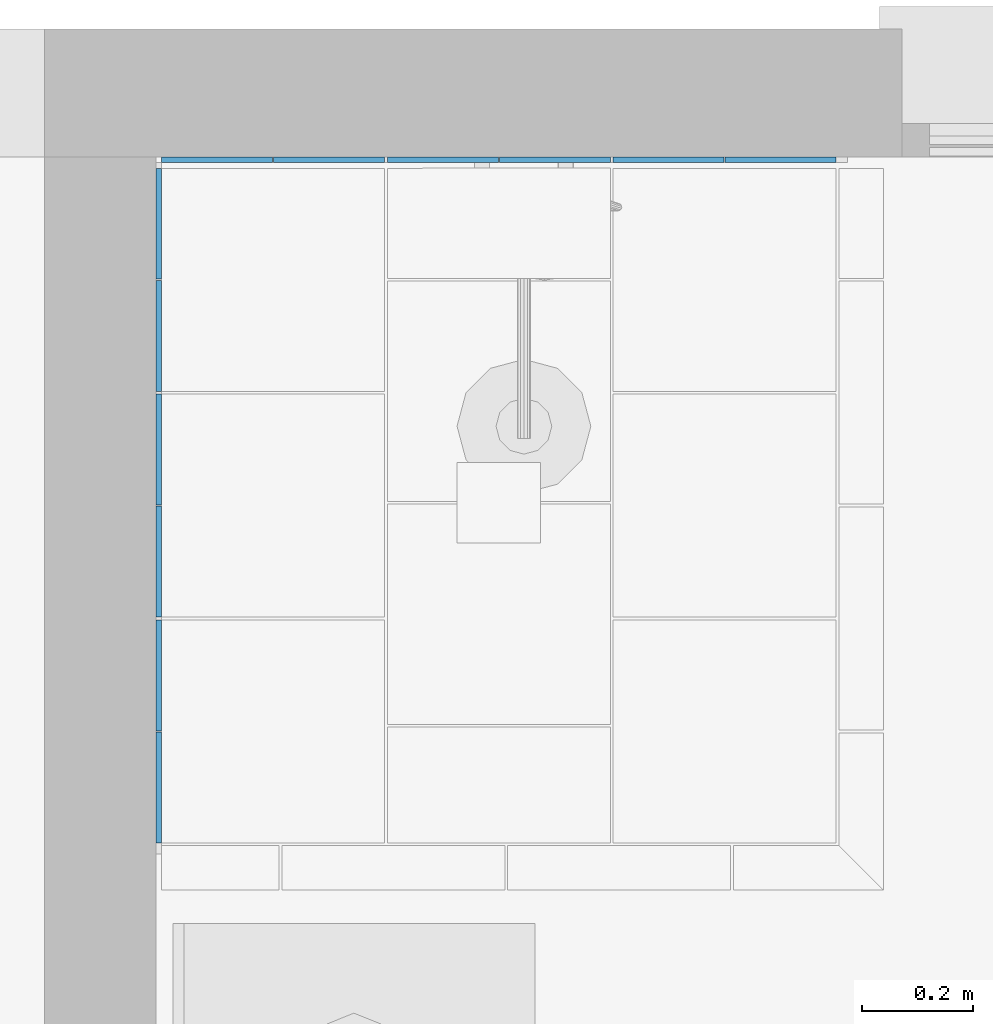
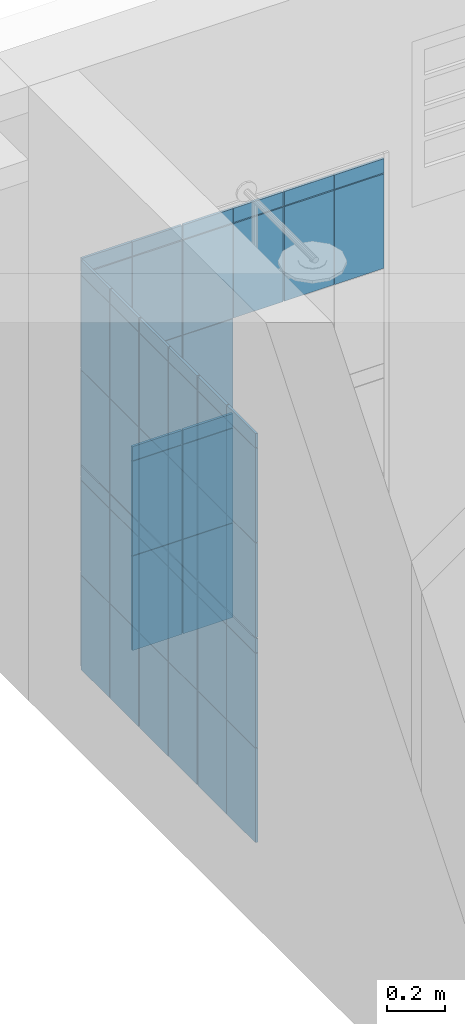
# One storey, part 4 of 13: 60 walls.
"""IFC2X3 building model written with IfcOpenShell, lengths in metres."""

from ifc_helpers import new_model, entity, si_unit, converted_unit, derived_unit, money_unit, direction, frame, origin_with_axes, place, context, subcontext, project, spatial, polyline, outline, extrude, material, layer, layer_set, layer_usage, type_object, element, save


model = new_model("IFC2X3")

# Units and contexts
model_context = context("Model", 3, precision=1e-05, world=origin_with_axes(), true_north=direction((0.0, 1.0)))
body_context = subcontext(model_context, "Body", "Model", "MODEL_VIEW")
ifc_project = project(units=[si_unit("LENGTHUNIT", "METRE"), si_unit("AREAUNIT", "SQUARE_METRE"), si_unit("VOLUMEUNIT", "CUBIC_METRE"), converted_unit("PLANEANGLEUNIT", "DEGREE", entity("IfcPlaneAngleMeasure", 0.0174532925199), si_unit("PLANEANGLEUNIT", "RADIAN"), dimensions=[0, 0, 0, 0, 0, 0, 0]), si_unit("SOLIDANGLEUNIT", "STERADIAN"), money_unit("CHF"), converted_unit("TIMEUNIT", "Year", entity("IfcTimeMeasure", 31556926.0), si_unit("TIMEUNIT", "SECOND"), dimensions=[0, 0, 1, 0, 0, 0, 0]), si_unit("MASSUNIT", "GRAM", prefix="KILO"), si_unit("THERMODYNAMICTEMPERATUREUNIT", "DEGREE_CELSIUS"), si_unit("LUMINOUSINTENSITYUNIT", "LUMEN"), si_unit("ENERGYUNIT", "JOULE", prefix="MEGA"), derived_unit("THERMALCONDUCTANCEUNIT", [(si_unit("POWERUNIT", "WATT"), 1), (si_unit("LENGTHUNIT", "METRE"), -1), (si_unit("THERMODYNAMICTEMPERATUREUNIT", "KELVIN"), -1)]), derived_unit("SPECIFICHEATCAPACITYUNIT", [(si_unit("ENERGYUNIT", "JOULE"), 1), (si_unit("MASSUNIT", "GRAM", prefix="KILO"), -1), (si_unit("THERMODYNAMICTEMPERATUREUNIT", "KELVIN"), -1)]), derived_unit("MASSDENSITYUNIT", [(si_unit("MASSUNIT", "GRAM", prefix="KILO"), 1), (si_unit("VOLUMEUNIT", "CUBIC_METRE"), -1)])], contexts=[model_context])

# Site, building, storey
site_placement = place(None, origin_with_axes())
site = spatial("IfcSite", under=ifc_project, at=site_placement, Name="Site", CompositionType="ELEMENT")
building_placement = place(site_placement, origin_with_axes())
building = spatial("IfcBuilding", under=site, at=building_placement, Name="Bâtiment", CompositionType="ELEMENT")
storey_placement = place(building_placement, origin_with_axes())
storey = spatial("IfcBuildingStorey", under=building, at=storey_placement, Name="SOUS-SOL", CompositionType="ELEMENT", Elevation=0.0)

# Walls
ifc_material = material(Name="MUR VILLA")
ifc_layer = layer(ifc_material, 0.01, ventilated="UNKNOWN")
ifc_layer_set = layer_set([ifc_layer], Name="MUR VILLA 0.01")
ifc_layer_usage_1 = layer_usage(ifc_layer_set, "AXIS2", "POSITIVE", 0.0)
wall_type = type_object("IfcWallType", Name="MUR VILLA 10", PredefinedType="NOTDEFINED")
wall_1_placement = place(storey_placement, frame((90.1255190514, 18.5703410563, -1.04621696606), z_axis=(0.0, 0.0, 1.0), x_axis=(1.0, 0.0, 0.0)))
element("IfcWallStandardCase", 1, at=wall_1_placement, inside=storey, type_object=wall_type, material=ifc_layer_usage_1, Name="Mur-020", context=body_context, shape_type="SweptSolid", body=[
    extrude(outline(polyline([(0.0, 0.0), (0.199, 0.0), (0.199, 0.01), (0.0, 0.01), (0.0, 0.0)])), origin_with_axes(), (0.0, 0.0, 1.0), 0.06),
])
ifc_layer_usage_2 = layer_usage(ifc_layer_set, "AXIS2", "POSITIVE", 0.0)
wall_2_placement = place(storey_placement, frame((89.9215190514, 18.57034355, -1.45078303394), z_axis=(0.0, 0.0, 1.0), x_axis=(1.0, 0.0, 0.0)))
element("IfcWallStandardCase", 2, at=wall_2_placement, inside=storey, type_object=wall_type, material=ifc_layer_usage_2, Name="Mur-020", context=body_context, shape_type="SweptSolid", body=[
    extrude(outline(polyline([(0.0, 0.0), (0.199, 0.0), (0.199, 0.01), (0.0, 0.01), (0.0, 0.0)])), origin_with_axes(), (0.0, 0.0, 1.0), 0.4),
])
ifc_layer_usage_3 = layer_usage(ifc_layer_set, "AXIS2", "POSITIVE", 0.0)
wall_3_placement = place(storey_placement, frame((90.1255190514, 18.57034355, -1.45078303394), z_axis=(0.0, 0.0, 1.0), x_axis=(1.0, 0.0, 0.0)))
element("IfcWallStandardCase", 3, at=wall_3_placement, inside=storey, type_object=wall_type, material=ifc_layer_usage_3, Name="Mur-020", context=body_context, shape_type="SweptSolid", body=[
    extrude(outline(polyline([(0.0, 0.0), (0.199, 0.0), (0.199, 0.01), (0.0, 0.01), (0.0, 0.0)])), origin_with_axes(), (0.0, 0.0, 1.0), 0.4),
])
ifc_layer_usage_4 = layer_usage(ifc_layer_set, "AXIS2", "POSITIVE", 0.0)
wall_4_placement = place(storey_placement, frame((90.3265190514, 18.57034355, -1.45078303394), z_axis=(0.0, 0.0, 1.0), x_axis=(1.0, 0.0, 0.0)))
element("IfcWallStandardCase", 4, at=wall_4_placement, inside=storey, type_object=wall_type, material=ifc_layer_usage_4, Name="Mur-020", context=body_context, shape_type="SweptSolid", body=[
    extrude(outline(polyline([(0.0, 0.0), (0.199, 0.0), (0.199, 0.01), (0.0, 0.01), (0.0, 0.0)])), origin_with_axes(), (0.0, 0.0, 1.0), 0.4),
])
ifc_layer_usage_5 = layer_usage(ifc_layer_set, "AXIS2", "POSITIVE", 0.0)
wall_5_placement = place(storey_placement, frame((89.9215190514, 18.5703410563, -1.04621696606), z_axis=(0.0, 0.0, 1.0), x_axis=(1.0, 0.0, 0.0)))
element("IfcWallStandardCase", 5, at=wall_5_placement, inside=storey, type_object=wall_type, material=ifc_layer_usage_5, Name="Mur-020", context=body_context, shape_type="SweptSolid", body=[
    extrude(outline(polyline([(0.0, 0.0), (0.199, 0.0), (0.199, 0.01), (0.0, 0.01), (0.0, 0.0)])), origin_with_axes(), (0.0, 0.0, 1.0), 0.06),
])
ifc_layer_usage_6 = layer_usage(ifc_layer_set, "AXIS2", "POSITIVE", 0.0)
wall_6_placement = place(storey_placement, frame((90.3265190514, 18.5703410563, -1.04621696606), z_axis=(0.0, 0.0, 1.0), x_axis=(1.0, 0.0, 0.0)))
element("IfcWallStandardCase", 6, at=wall_6_placement, inside=storey, type_object=wall_type, material=ifc_layer_usage_6, Name="Mur-020", context=body_context, shape_type="SweptSolid", body=[
    extrude(outline(polyline([(0.0, 0.0), (0.199, 0.0), (0.199, 0.01), (0.0, 0.01), (0.0, 0.0)])), origin_with_axes(), (0.0, 0.0, 1.0), 0.06),
])
ifc_layer_usage_7 = layer_usage(ifc_layer_set, "AXIS2", "POSITIVE", 0.0)
wall_7_placement = place(storey_placement, frame((89.3155190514, 18.3613410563, -2.718), z_axis=(0.0, 0.0, 1.0), x_axis=(0.0, 1.0, 0.0)))
element("IfcWallStandardCase", 7, at=wall_7_placement, inside=storey, type_object=wall_type, material=ifc_layer_usage_7, Name="Mur-020", context=body_context, shape_type="SweptSolid", body=[
    extrude(outline(polyline([(0.0, 0.0), (0.199, 0.0), (0.199, 0.01), (0.0, 0.01), (0.0, 0.0)])), origin_with_axes(), (0.0, 0.0, 1.0), 0.4),
])
ifc_layer_usage_8 = layer_usage(ifc_layer_set, "AXIS2", "POSITIVE", 0.0)
wall_8_placement = place(storey_placement, frame((89.3155190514, 18.57034355, -1.85278303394), z_axis=(0.0, 0.0, 1.0), x_axis=(1.0, 0.0, 0.0)))
element("IfcWallStandardCase", 8, at=wall_8_placement, inside=storey, type_object=wall_type, material=ifc_layer_usage_8, Name="Mur-020", context=body_context, shape_type="SweptSolid", body=[
    extrude(outline(polyline([(0.0, 0.0), (0.199, 0.0), (0.199, 0.01), (0.0, 0.01), (0.0, 0.0)])), origin_with_axes(), (0.0, 0.0, 1.0), 0.4),
])
ifc_layer_usage_9 = layer_usage(ifc_layer_set, "AXIS2", "POSITIVE", 0.0)
wall_9_placement = place(storey_placement, frame((89.3155190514, 17.5513410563, -1.849), z_axis=(0.0, 0.0, 1.0), x_axis=(0.0, 1.0, 0.0)))
element("IfcWallStandardCase", 9, at=wall_9_placement, inside=storey, type_object=wall_type, material=ifc_layer_usage_9, Name="Mur-020", context=body_context, shape_type="SweptSolid", body=[
    extrude(outline(polyline([(0.0, 0.0), (0.199, 0.0), (0.199, 0.01), (0.0, 0.01), (0.0, 0.0)])), origin_with_axes(), (0.0, 0.0, 1.0), 0.4),
])
ifc_layer_usage_10 = layer_usage(ifc_layer_set, "AXIS2", "POSITIVE", 0.0)
wall_10_placement = place(storey_placement, frame((89.3155190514, 17.3503410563, -1.849), z_axis=(0.0, 0.0, 1.0), x_axis=(0.0, 1.0, 0.0)))
element("IfcWallStandardCase", 10, at=wall_10_placement, inside=storey, type_object=wall_type, material=ifc_layer_usage_10, Name="Mur-020", context=body_context, shape_type="SweptSolid", body=[
    extrude(outline(polyline([(0.0, 0.0), (0.199, 0.0), (0.199, 0.01), (0.0, 0.01), (0.0, 0.0)])), origin_with_axes(), (0.0, 0.0, 1.0), 0.4),
])
ifc_layer_usage_11 = layer_usage(ifc_layer_set, "AXIS2", "POSITIVE", 0.0)
wall_11_placement = place(storey_placement, frame((89.3155190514, 17.9563410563, -1.849), z_axis=(0.0, 0.0, 1.0), x_axis=(0.0, 1.0, 0.0)))
element("IfcWallStandardCase", 11, at=wall_11_placement, inside=storey, type_object=wall_type, material=ifc_layer_usage_11, Name="Mur-020", context=body_context, shape_type="SweptSolid", body=[
    extrude(outline(polyline([(0.0, 0.0), (0.199, 0.0), (0.199, 0.01), (0.0, 0.01), (0.0, 0.0)])), origin_with_axes(), (0.0, 0.0, 1.0), 0.4),
])
ifc_layer_usage_12 = layer_usage(ifc_layer_set, "AXIS2", "POSITIVE", 0.0)
wall_12_placement = place(storey_placement, frame((89.3155190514, 18.3613410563, -2.316), z_axis=(0.0, 0.0, 1.0), x_axis=(0.0, 1.0, 0.0)))
element("IfcWallStandardCase", 12, at=wall_12_placement, inside=storey, type_object=wall_type, material=ifc_layer_usage_12, Name="Mur-020", context=body_context, shape_type="SweptSolid", body=[
    extrude(outline(polyline([(0.0, 0.0), (0.199, 0.0), (0.199, 0.01), (0.0, 0.01), (0.0, 0.0)])), origin_with_axes(), (0.0, 0.0, 1.0), 0.4),
])
ifc_layer_usage_13 = layer_usage(ifc_layer_set, "AXIS2", "POSITIVE", 0.0)
wall_13_placement = place(storey_placement, frame((89.3155190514, 17.7553410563, -2.316), z_axis=(0.0, 0.0, 1.0), x_axis=(0.0, 1.0, 0.0)))
element("IfcWallStandardCase", 13, at=wall_13_placement, inside=storey, type_object=wall_type, material=ifc_layer_usage_13, Name="Mur-020", context=body_context, shape_type="SweptSolid", body=[
    extrude(outline(polyline([(0.0, 0.0), (0.199, 0.0), (0.199, 0.01), (0.0, 0.01), (0.0, 0.0)])), origin_with_axes(), (0.0, 0.0, 1.0), 0.4),
])
ifc_layer_usage_14 = layer_usage(ifc_layer_set, "AXIS2", "POSITIVE", 0.0)
wall_14_placement = place(storey_placement, frame((89.7205190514, 18.5703410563, -1.914), z_axis=(0.0, 0.0, 1.0), x_axis=(1.0, 0.0, 0.0)))
element("IfcWallStandardCase", 14, at=wall_14_placement, inside=storey, type_object=wall_type, material=ifc_layer_usage_14, Name="Mur-020", context=body_context, shape_type="SweptSolid", body=[
    extrude(outline(polyline([(0.0, 0.0), (0.199, 0.0), (0.199, 0.01), (0.0, 0.01), (0.0, 0.0)])), origin_with_axes(), (0.0, 0.0, 1.0), 0.06),
])
ifc_layer_usage_15 = layer_usage(ifc_layer_set, "AXIS2", "POSITIVE", 0.0)
wall_15_placement = place(storey_placement, frame((89.3155190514, 17.5513410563, -2.718), z_axis=(0.0, 0.0, 1.0), x_axis=(0.0, 1.0, 0.0)))
element("IfcWallStandardCase", 15, at=wall_15_placement, inside=storey, type_object=wall_type, material=ifc_layer_usage_15, Name="Mur-020", context=body_context, shape_type="SweptSolid", body=[
    extrude(outline(polyline([(0.0, 0.0), (0.199, 0.0), (0.199, 0.01), (0.0, 0.01), (0.0, 0.0)])), origin_with_axes(), (0.0, 0.0, 1.0), 0.4),
])
ifc_layer_usage_16 = layer_usage(ifc_layer_set, "AXIS2", "POSITIVE", 0.0)
wall_16_placement = place(storey_placement, frame((89.3155190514, 17.3503410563, -2.718), z_axis=(0.0, 0.0, 1.0), x_axis=(0.0, 1.0, 0.0)))
element("IfcWallStandardCase", 16, at=wall_16_placement, inside=storey, type_object=wall_type, material=ifc_layer_usage_16, Name="Mur-020", context=body_context, shape_type="SweptSolid", body=[
    extrude(outline(polyline([(0.0, 0.0), (0.199, 0.0), (0.199, 0.01), (0.0, 0.01), (0.0, 0.0)])), origin_with_axes(), (0.0, 0.0, 1.0), 0.4),
])
ifc_layer_usage_17 = layer_usage(ifc_layer_set, "AXIS2", "POSITIVE", 0.0)
wall_17_placement = place(storey_placement, frame((89.3155190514, 17.3503410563, -2.316), z_axis=(0.0, 0.0, 1.0), x_axis=(0.0, 1.0, 0.0)))
element("IfcWallStandardCase", 17, at=wall_17_placement, inside=storey, type_object=wall_type, material=ifc_layer_usage_17, Name="Mur-020", context=body_context, shape_type="SweptSolid", body=[
    extrude(outline(polyline([(0.0, 0.0), (0.199, 0.0), (0.199, 0.01), (0.0, 0.01), (0.0, 0.0)])), origin_with_axes(), (0.0, 0.0, 1.0), 0.4),
])
ifc_layer_usage_18 = layer_usage(ifc_layer_set, "AXIS2", "POSITIVE", 0.0)
wall_18_placement = place(storey_placement, frame((89.3155190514, 17.5513410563, -2.316), z_axis=(0.0, 0.0, 1.0), x_axis=(0.0, 1.0, 0.0)))
element("IfcWallStandardCase", 18, at=wall_18_placement, inside=storey, type_object=wall_type, material=ifc_layer_usage_18, Name="Mur-020", context=body_context, shape_type="SweptSolid", body=[
    extrude(outline(polyline([(0.0, 0.0), (0.199, 0.0), (0.199, 0.01), (0.0, 0.01), (0.0, 0.0)])), origin_with_axes(), (0.0, 0.0, 1.0), 0.4),
])
ifc_layer_usage_19 = layer_usage(ifc_layer_set, "AXIS2", "POSITIVE", 0.0)
wall_19_placement = place(storey_placement, frame((89.3155190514, 18.1603410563, -2.718), z_axis=(0.0, 0.0, 1.0), x_axis=(0.0, 1.0, 0.0)))
element("IfcWallStandardCase", 19, at=wall_19_placement, inside=storey, type_object=wall_type, material=ifc_layer_usage_19, Name="Mur-020", context=body_context, shape_type="SweptSolid", body=[
    extrude(outline(polyline([(0.0, 0.0), (0.199, 0.0), (0.199, 0.01), (0.0, 0.01), (0.0, 0.0)])), origin_with_axes(), (0.0, 0.0, 1.0), 0.4),
])
ifc_layer_usage_20 = layer_usage(ifc_layer_set, "AXIS2", "POSITIVE", 0.0)
wall_20_placement = place(storey_placement, frame((89.3155190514, 17.7553410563, -2.718), z_axis=(0.0, 0.0, 1.0), x_axis=(0.0, 1.0, 0.0)))
element("IfcWallStandardCase", 20, at=wall_20_placement, inside=storey, type_object=wall_type, material=ifc_layer_usage_20, Name="Mur-020", context=body_context, shape_type="SweptSolid", body=[
    extrude(outline(polyline([(0.0, 0.0), (0.199, 0.0), (0.199, 0.01), (0.0, 0.01), (0.0, 0.0)])), origin_with_axes(), (0.0, 0.0, 1.0), 0.4),
])
ifc_layer_usage_21 = layer_usage(ifc_layer_set, "AXIS2", "POSITIVE", 0.0)
wall_21_placement = place(storey_placement, frame((89.3155190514, 17.9563410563, -2.316), z_axis=(0.0, 0.0, 1.0), x_axis=(0.0, 1.0, 0.0)))
element("IfcWallStandardCase", 21, at=wall_21_placement, inside=storey, type_object=wall_type, material=ifc_layer_usage_21, Name="Mur-020", context=body_context, shape_type="SweptSolid", body=[
    extrude(outline(polyline([(0.0, 0.0), (0.199, 0.0), (0.199, 0.01), (0.0, 0.01), (0.0, 0.0)])), origin_with_axes(), (0.0, 0.0, 1.0), 0.4),
])
ifc_layer_usage_22 = layer_usage(ifc_layer_set, "AXIS2", "POSITIVE", 0.0)
wall_22_placement = place(storey_placement, frame((89.3155190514, 18.1603410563, -2.316), z_axis=(0.0, 0.0, 1.0), x_axis=(0.0, 1.0, 0.0)))
element("IfcWallStandardCase", 22, at=wall_22_placement, inside=storey, type_object=wall_type, material=ifc_layer_usage_22, Name="Mur-020", context=body_context, shape_type="SweptSolid", body=[
    extrude(outline(polyline([(0.0, 0.0), (0.199, 0.0), (0.199, 0.01), (0.0, 0.01), (0.0, 0.0)])), origin_with_axes(), (0.0, 0.0, 1.0), 0.4),
])
ifc_layer_usage_23 = layer_usage(ifc_layer_set, "AXIS2", "POSITIVE", 0.0)
wall_23_placement = place(storey_placement, frame((89.3155190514, 17.9563410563, -2.718), z_axis=(0.0, 0.0, 1.0), x_axis=(0.0, 1.0, 0.0)))
element("IfcWallStandardCase", 23, at=wall_23_placement, inside=storey, type_object=wall_type, material=ifc_layer_usage_23, Name="Mur-020", context=body_context, shape_type="SweptSolid", body=[
    extrude(outline(polyline([(0.0, 0.0), (0.199, 0.0), (0.199, 0.01), (0.0, 0.01), (0.0, 0.0)])), origin_with_axes(), (0.0, 0.0, 1.0), 0.4),
])
ifc_layer_usage_24 = layer_usage(ifc_layer_set, "AXIS2", "POSITIVE", 0.0)
wall_24_placement = place(storey_placement, frame((89.3155190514, 18.5703410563, -1.914), z_axis=(0.0, 0.0, 1.0), x_axis=(1.0, 0.0, 0.0)))
element("IfcWallStandardCase", 24, at=wall_24_placement, inside=storey, type_object=wall_type, material=ifc_layer_usage_24, Name="Mur-020", context=body_context, shape_type="SweptSolid", body=[
    extrude(outline(polyline([(0.0, 0.0), (0.199, 0.0), (0.199, 0.01), (0.0, 0.01), (0.0, 0.0)])), origin_with_axes(), (0.0, 0.0, 1.0), 0.06),
])
ifc_layer_usage_25 = layer_usage(ifc_layer_set, "AXIS2", "POSITIVE", 0.0)
wall_25_placement = place(storey_placement, frame((89.3155190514, 17.3503410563, -1.914), z_axis=(0.0, 0.0, 1.0), x_axis=(0.0, 1.0, 0.0)))
element("IfcWallStandardCase", 25, at=wall_25_placement, inside=storey, type_object=wall_type, material=ifc_layer_usage_25, Name="Mur-020", context=body_context, shape_type="SweptSolid", body=[
    extrude(outline(polyline([(0.0, 0.0), (0.199, 0.0), (0.199, 0.01), (0.0, 0.01), (0.0, 0.0)])), origin_with_axes(), (0.0, 0.0, 1.0), 0.06),
])
ifc_layer_usage_26 = layer_usage(ifc_layer_set, "AXIS2", "POSITIVE", 0.0)
wall_26_placement = place(storey_placement, frame((89.3155190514, 17.7553410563, -1.849), z_axis=(0.0, 0.0, 1.0), x_axis=(0.0, 1.0, 0.0)))
element("IfcWallStandardCase", 26, at=wall_26_placement, inside=storey, type_object=wall_type, material=ifc_layer_usage_26, Name="Mur-020", context=body_context, shape_type="SweptSolid", body=[
    extrude(outline(polyline([(0.0, 0.0), (0.199, 0.0), (0.199, 0.01), (0.0, 0.01), (0.0, 0.0)])), origin_with_axes(), (0.0, 0.0, 1.0), 0.4),
])
ifc_layer_usage_27 = layer_usage(ifc_layer_set, "AXIS2", "POSITIVE", 0.0)
wall_27_placement = place(storey_placement, frame((89.7205190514, 18.57034355, -1.85278303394), z_axis=(0.0, 0.0, 1.0), x_axis=(1.0, 0.0, 0.0)))
element("IfcWallStandardCase", 27, at=wall_27_placement, inside=storey, type_object=wall_type, material=ifc_layer_usage_27, Name="Mur-020", context=body_context, shape_type="SweptSolid", body=[
    extrude(outline(polyline([(0.0, 0.0), (0.199, 0.0), (0.199, 0.01), (0.0, 0.01), (0.0, 0.0)])), origin_with_axes(), (0.0, 0.0, 1.0), 0.4),
])
ifc_layer_usage_28 = layer_usage(ifc_layer_set, "AXIS2", "POSITIVE", 0.0)
wall_28_placement = place(storey_placement, frame((89.7205190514, 18.57034355, -1.45078303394), z_axis=(0.0, 0.0, 1.0), x_axis=(1.0, 0.0, 0.0)))
element("IfcWallStandardCase", 28, at=wall_28_placement, inside=storey, type_object=wall_type, material=ifc_layer_usage_28, Name="Mur-020", context=body_context, shape_type="SweptSolid", body=[
    extrude(outline(polyline([(0.0, 0.0), (0.199, 0.0), (0.199, 0.01), (0.0, 0.01), (0.0, 0.0)])), origin_with_axes(), (0.0, 0.0, 1.0), 0.4),
])
ifc_layer_usage_29 = layer_usage(ifc_layer_set, "AXIS2", "POSITIVE", 0.0)
wall_29_placement = place(storey_placement, frame((89.5165190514, 18.57034355, -2.718), z_axis=(0.0, 0.0, 1.0), x_axis=(1.0, 0.0, 0.0)))
element("IfcWallStandardCase", 29, at=wall_29_placement, inside=storey, type_object=wall_type, material=ifc_layer_usage_29, Name="Mur-020", context=body_context, shape_type="SweptSolid", body=[
    extrude(outline(polyline([(0.0, 0.0), (0.199, 0.0), (0.199, 0.01), (0.0, 0.01), (0.0, 0.0)])), origin_with_axes(), (0.0, 0.0, 1.0), 0.4),
])
ifc_layer_usage_30 = layer_usage(ifc_layer_set, "AXIS2", "POSITIVE", 0.0)
wall_30_placement = place(storey_placement, frame((89.3155190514, 18.57034355, -2.718), z_axis=(0.0, 0.0, 1.0), x_axis=(1.0, 0.0, 0.0)))
element("IfcWallStandardCase", 30, at=wall_30_placement, inside=storey, type_object=wall_type, material=ifc_layer_usage_30, Name="Mur-020", context=body_context, shape_type="SweptSolid", body=[
    extrude(outline(polyline([(0.0, 0.0), (0.199, 0.0), (0.199, 0.01), (0.0, 0.01), (0.0, 0.0)])), origin_with_axes(), (0.0, 0.0, 1.0), 0.4),
])
ifc_layer_usage_31 = layer_usage(ifc_layer_set, "AXIS2", "POSITIVE", 0.0)
wall_31_placement = place(storey_placement, frame((89.7205190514, 18.57034355, -2.718), z_axis=(0.0, 0.0, 1.0), x_axis=(1.0, 0.0, 0.0)))
element("IfcWallStandardCase", 31, at=wall_31_placement, inside=storey, type_object=wall_type, material=ifc_layer_usage_31, Name="Mur-020", context=body_context, shape_type="SweptSolid", body=[
    extrude(outline(polyline([(0.0, 0.0), (0.199, 0.0), (0.199, 0.01), (0.0, 0.01), (0.0, 0.0)])), origin_with_axes(), (0.0, 0.0, 1.0), 0.4),
])
ifc_layer_usage_32 = layer_usage(ifc_layer_set, "AXIS2", "POSITIVE", 0.0)
wall_32_placement = place(storey_placement, frame((89.5165190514, 18.57034355, -2.316), z_axis=(0.0, 0.0, 1.0), x_axis=(1.0, 0.0, 0.0)))
element("IfcWallStandardCase", 32, at=wall_32_placement, inside=storey, type_object=wall_type, material=ifc_layer_usage_32, Name="Mur-020", context=body_context, shape_type="SweptSolid", body=[
    extrude(outline(polyline([(0.0, 0.0), (0.199, 0.0), (0.199, 0.01), (0.0, 0.01), (0.0, 0.0)])), origin_with_axes(), (0.0, 0.0, 1.0), 0.4),
])
ifc_layer_usage_33 = layer_usage(ifc_layer_set, "AXIS2", "POSITIVE", 0.0)
wall_33_placement = place(storey_placement, frame((89.3155190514, 18.57034355, -2.316), z_axis=(0.0, 0.0, 1.0), x_axis=(1.0, 0.0, 0.0)))
element("IfcWallStandardCase", 33, at=wall_33_placement, inside=storey, type_object=wall_type, material=ifc_layer_usage_33, Name="Mur-020", context=body_context, shape_type="SweptSolid", body=[
    extrude(outline(polyline([(0.0, 0.0), (0.199, 0.0), (0.199, 0.01), (0.0, 0.01), (0.0, 0.0)])), origin_with_axes(), (0.0, 0.0, 1.0), 0.4),
])
ifc_layer_usage_34 = layer_usage(ifc_layer_set, "AXIS2", "POSITIVE", 0.0)
wall_34_placement = place(storey_placement, frame((89.7205190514, 18.57034355, -2.316), z_axis=(0.0, 0.0, 1.0), x_axis=(1.0, 0.0, 0.0)))
element("IfcWallStandardCase", 34, at=wall_34_placement, inside=storey, type_object=wall_type, material=ifc_layer_usage_34, Name="Mur-020", context=body_context, shape_type="SweptSolid", body=[
    extrude(outline(polyline([(0.0, 0.0), (0.199, 0.0), (0.199, 0.01), (0.0, 0.01), (0.0, 0.0)])), origin_with_axes(), (0.0, 0.0, 1.0), 0.4),
])
ifc_layer_usage_35 = layer_usage(ifc_layer_set, "AXIS2", "POSITIVE", 0.0)
wall_35_placement = place(storey_placement, frame((89.5165190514, 18.5703410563, -1.914), z_axis=(0.0, 0.0, 1.0), x_axis=(1.0, 0.0, 0.0)))
element("IfcWallStandardCase", 35, at=wall_35_placement, inside=storey, type_object=wall_type, material=ifc_layer_usage_35, Name="Mur-020", context=body_context, shape_type="SweptSolid", body=[
    extrude(outline(polyline([(0.0, 0.0), (0.199, 0.0), (0.199, 0.01), (0.0, 0.01), (0.0, 0.0)])), origin_with_axes(), (0.0, 0.0, 1.0), 0.06),
])
ifc_layer_usage_36 = layer_usage(ifc_layer_set, "AXIS2", "POSITIVE", 0.0)
wall_36_placement = place(storey_placement, frame((89.3155190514, 17.3503410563, -1.447), z_axis=(0.0, 0.0, 1.0), x_axis=(0.0, 1.0, 0.0)))
element("IfcWallStandardCase", 36, at=wall_36_placement, inside=storey, type_object=wall_type, material=ifc_layer_usage_36, Name="Mur-020", context=body_context, shape_type="SweptSolid", body=[
    extrude(outline(polyline([(0.0, 0.0), (0.199, 0.0), (0.199, 0.01), (0.0, 0.01), (0.0, 0.0)])), origin_with_axes(), (0.0, 0.0, 1.0), 0.4),
])
ifc_layer_usage_37 = layer_usage(ifc_layer_set, "AXIS2", "POSITIVE", 0.0)
wall_37_placement = place(storey_placement, frame((89.3155190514, 17.9563410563, -1.447), z_axis=(0.0, 0.0, 1.0), x_axis=(0.0, 1.0, 0.0)))
element("IfcWallStandardCase", 37, at=wall_37_placement, inside=storey, type_object=wall_type, material=ifc_layer_usage_37, Name="Mur-020", context=body_context, shape_type="SweptSolid", body=[
    extrude(outline(polyline([(0.0, 0.0), (0.199, 0.0), (0.199, 0.01), (0.0, 0.01), (0.0, 0.0)])), origin_with_axes(), (0.0, 0.0, 1.0), 0.4),
])
ifc_layer_usage_38 = layer_usage(ifc_layer_set, "AXIS2", "POSITIVE", 0.0)
wall_38_placement = place(storey_placement, frame((89.3155190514, 17.7553410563, -1.447), z_axis=(0.0, 0.0, 1.0), x_axis=(0.0, 1.0, 0.0)))
element("IfcWallStandardCase", 38, at=wall_38_placement, inside=storey, type_object=wall_type, material=ifc_layer_usage_38, Name="Mur-020", context=body_context, shape_type="SweptSolid", body=[
    extrude(outline(polyline([(0.0, 0.0), (0.199, 0.0), (0.199, 0.01), (0.0, 0.01), (0.0, 0.0)])), origin_with_axes(), (0.0, 0.0, 1.0), 0.4),
])
ifc_layer_usage_39 = layer_usage(ifc_layer_set, "AXIS2", "POSITIVE", 0.0)
wall_39_placement = place(storey_placement, frame((89.3155190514, 17.5513410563, -1.447), z_axis=(0.0, 0.0, 1.0), x_axis=(0.0, 1.0, 0.0)))
element("IfcWallStandardCase", 39, at=wall_39_placement, inside=storey, type_object=wall_type, material=ifc_layer_usage_39, Name="Mur-020", context=body_context, shape_type="SweptSolid", body=[
    extrude(outline(polyline([(0.0, 0.0), (0.199, 0.0), (0.199, 0.01), (0.0, 0.01), (0.0, 0.0)])), origin_with_axes(), (0.0, 0.0, 1.0), 0.4),
])
ifc_layer_usage_40 = layer_usage(ifc_layer_set, "AXIS2", "POSITIVE", 0.0)
wall_40_placement = place(storey_placement, frame((89.3155190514, 18.1603410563, -1.447), z_axis=(0.0, 0.0, 1.0), x_axis=(0.0, 1.0, 0.0)))
element("IfcWallStandardCase", 40, at=wall_40_placement, inside=storey, type_object=wall_type, material=ifc_layer_usage_40, Name="Mur-020", context=body_context, shape_type="SweptSolid", body=[
    extrude(outline(polyline([(0.0, 0.0), (0.199, 0.0), (0.199, 0.01), (0.0, 0.01), (0.0, 0.0)])), origin_with_axes(), (0.0, 0.0, 1.0), 0.4),
])
ifc_layer_usage_41 = layer_usage(ifc_layer_set, "AXIS2", "POSITIVE", 0.0)
wall_41_placement = place(storey_placement, frame((89.3155190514, 18.3613410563, -1.447), z_axis=(0.0, 0.0, 1.0), x_axis=(0.0, 1.0, 0.0)))
element("IfcWallStandardCase", 41, at=wall_41_placement, inside=storey, type_object=wall_type, material=ifc_layer_usage_41, Name="Mur-020", context=body_context, shape_type="SweptSolid", body=[
    extrude(outline(polyline([(0.0, 0.0), (0.199, 0.0), (0.199, 0.01), (0.0, 0.01), (0.0, 0.0)])), origin_with_axes(), (0.0, 0.0, 1.0), 0.4),
])
ifc_layer_usage_42 = layer_usage(ifc_layer_set, "AXIS2", "POSITIVE", 0.0)
wall_42_placement = place(storey_placement, frame((89.3155190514, 17.5513410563, -1.914), z_axis=(0.0, 0.0, 1.0), x_axis=(0.0, 1.0, 0.0)))
element("IfcWallStandardCase", 42, at=wall_42_placement, inside=storey, type_object=wall_type, material=ifc_layer_usage_42, Name="Mur-020", context=body_context, shape_type="SweptSolid", body=[
    extrude(outline(polyline([(0.0, 0.0), (0.199, 0.0), (0.199, 0.01), (0.0, 0.01), (0.0, 0.0)])), origin_with_axes(), (0.0, 0.0, 1.0), 0.06),
])
ifc_layer_usage_43 = layer_usage(ifc_layer_set, "AXIS2", "POSITIVE", 0.0)
wall_43_placement = place(storey_placement, frame((89.3155190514, 17.7553410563, -1.914), z_axis=(0.0, 0.0, 1.0), x_axis=(0.0, 1.0, 0.0)))
element("IfcWallStandardCase", 43, at=wall_43_placement, inside=storey, type_object=wall_type, material=ifc_layer_usage_43, Name="Mur-020", context=body_context, shape_type="SweptSolid", body=[
    extrude(outline(polyline([(0.0, 0.0), (0.199, 0.0), (0.199, 0.01), (0.0, 0.01), (0.0, 0.0)])), origin_with_axes(), (0.0, 0.0, 1.0), 0.06),
])
ifc_layer_usage_44 = layer_usage(ifc_layer_set, "AXIS2", "POSITIVE", 0.0)
wall_44_placement = place(storey_placement, frame((89.3155190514, 17.9563410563, -1.914), z_axis=(0.0, 0.0, 1.0), x_axis=(0.0, 1.0, 0.0)))
element("IfcWallStandardCase", 44, at=wall_44_placement, inside=storey, type_object=wall_type, material=ifc_layer_usage_44, Name="Mur-020", context=body_context, shape_type="SweptSolid", body=[
    extrude(outline(polyline([(0.0, 0.0), (0.199, 0.0), (0.199, 0.01), (0.0, 0.01), (0.0, 0.0)])), origin_with_axes(), (0.0, 0.0, 1.0), 0.06),
])
ifc_layer_usage_45 = layer_usage(ifc_layer_set, "AXIS2", "POSITIVE", 0.0)
wall_45_placement = place(storey_placement, frame((89.3155190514, 18.1603410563, -1.914), z_axis=(0.0, 0.0, 1.0), x_axis=(0.0, 1.0, 0.0)))
element("IfcWallStandardCase", 45, at=wall_45_placement, inside=storey, type_object=wall_type, material=ifc_layer_usage_45, Name="Mur-020", context=body_context, shape_type="SweptSolid", body=[
    extrude(outline(polyline([(0.0, 0.0), (0.199, 0.0), (0.199, 0.01), (0.0, 0.01), (0.0, 0.0)])), origin_with_axes(), (0.0, 0.0, 1.0), 0.06),
])
ifc_layer_usage_46 = layer_usage(ifc_layer_set, "AXIS2", "POSITIVE", 0.0)
wall_46_placement = place(storey_placement, frame((89.3155190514, 18.3613410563, -1.914), z_axis=(0.0, 0.0, 1.0), x_axis=(0.0, 1.0, 0.0)))
element("IfcWallStandardCase", 46, at=wall_46_placement, inside=storey, type_object=wall_type, material=ifc_layer_usage_46, Name="Mur-020", context=body_context, shape_type="SweptSolid", body=[
    extrude(outline(polyline([(0.0, 0.0), (0.199, 0.0), (0.199, 0.01), (0.0, 0.01), (0.0, 0.0)])), origin_with_axes(), (0.0, 0.0, 1.0), 0.06),
])
ifc_layer_usage_47 = layer_usage(ifc_layer_set, "AXIS2", "POSITIVE", 0.0)
wall_47_placement = place(storey_placement, frame((89.3155190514, 18.3613410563, -1.849), z_axis=(0.0, 0.0, 1.0), x_axis=(0.0, 1.0, 0.0)))
element("IfcWallStandardCase", 47, at=wall_47_placement, inside=storey, type_object=wall_type, material=ifc_layer_usage_47, Name="Mur-020", context=body_context, shape_type="SweptSolid", body=[
    extrude(outline(polyline([(0.0, 0.0), (0.199, 0.0), (0.199, 0.01), (0.0, 0.01), (0.0, 0.0)])), origin_with_axes(), (0.0, 0.0, 1.0), 0.4),
])
ifc_layer_usage_48 = layer_usage(ifc_layer_set, "AXIS2", "POSITIVE", 0.0)
wall_48_placement = place(storey_placement, frame((89.3155190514, 18.1603410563, -1.849), z_axis=(0.0, 0.0, 1.0), x_axis=(0.0, 1.0, 0.0)))
element("IfcWallStandardCase", 48, at=wall_48_placement, inside=storey, type_object=wall_type, material=ifc_layer_usage_48, Name="Mur-020", context=body_context, shape_type="SweptSolid", body=[
    extrude(outline(polyline([(0.0, 0.0), (0.199, 0.0), (0.199, 0.01), (0.0, 0.01), (0.0, 0.0)])), origin_with_axes(), (0.0, 0.0, 1.0), 0.4),
])
ifc_layer_usage_49 = layer_usage(ifc_layer_set, "AXIS2", "POSITIVE", 0.0)
wall_49_placement = place(storey_placement, frame((89.3155190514, 18.57034355, -1.45078303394), z_axis=(0.0, 0.0, 1.0), x_axis=(1.0, 0.0, 0.0)))
element("IfcWallStandardCase", 49, at=wall_49_placement, inside=storey, type_object=wall_type, material=ifc_layer_usage_49, Name="Mur-020", context=body_context, shape_type="SweptSolid", body=[
    extrude(outline(polyline([(0.0, 0.0), (0.199, 0.0), (0.199, 0.01), (0.0, 0.01), (0.0, 0.0)])), origin_with_axes(), (0.0, 0.0, 1.0), 0.4),
])
ifc_layer_usage_50 = layer_usage(ifc_layer_set, "AXIS2", "POSITIVE", 0.0)
wall_50_placement = place(storey_placement, frame((89.5165190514, 18.57034355, -1.85278303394), z_axis=(0.0, 0.0, 1.0), x_axis=(1.0, 0.0, 0.0)))
element("IfcWallStandardCase", 50, at=wall_50_placement, inside=storey, type_object=wall_type, material=ifc_layer_usage_50, Name="Mur-020", context=body_context, shape_type="SweptSolid", body=[
    extrude(outline(polyline([(0.0, 0.0), (0.199, 0.0), (0.199, 0.01), (0.0, 0.01), (0.0, 0.0)])), origin_with_axes(), (0.0, 0.0, 1.0), 0.4),
])
ifc_layer_usage_51 = layer_usage(ifc_layer_set, "AXIS2", "POSITIVE", 0.0)
wall_51_placement = place(storey_placement, frame((89.5165190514, 18.57034355, -1.45078303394), z_axis=(0.0, 0.0, 1.0), x_axis=(1.0, 0.0, 0.0)))
element("IfcWallStandardCase", 51, at=wall_51_placement, inside=storey, type_object=wall_type, material=ifc_layer_usage_51, Name="Mur-020", context=body_context, shape_type="SweptSolid", body=[
    extrude(outline(polyline([(0.0, 0.0), (0.199, 0.0), (0.199, 0.01), (0.0, 0.01), (0.0, 0.0)])), origin_with_axes(), (0.0, 0.0, 1.0), 0.4),
])
ifc_layer_usage_52 = layer_usage(ifc_layer_set, "AXIS2", "POSITIVE", 0.0)
wall_52_placement = place(storey_placement, frame((89.3155190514, 17.3503410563, -1.045), z_axis=(0.0, 0.0, 1.0), x_axis=(0.0, 1.0, 0.0)))
element("IfcWallStandardCase", 52, at=wall_52_placement, inside=storey, type_object=wall_type, material=ifc_layer_usage_52, Name="Mur-020", context=body_context, shape_type="SweptSolid", body=[
    extrude(outline(polyline([(0.0, 0.0), (0.199, 0.0), (0.199, 0.01), (0.0, 0.01), (0.0, 0.0)])), origin_with_axes(), (0.0, 0.0, 1.0), 0.06),
])
ifc_layer_usage_53 = layer_usage(ifc_layer_set, "AXIS2", "POSITIVE", 0.0)
wall_53_placement = place(storey_placement, frame((89.3155190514, 17.5513410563, -1.045), z_axis=(0.0, 0.0, 1.0), x_axis=(0.0, 1.0, 0.0)))
element("IfcWallStandardCase", 53, at=wall_53_placement, inside=storey, type_object=wall_type, material=ifc_layer_usage_53, Name="Mur-020", context=body_context, shape_type="SweptSolid", body=[
    extrude(outline(polyline([(0.0, 0.0), (0.199, 0.0), (0.199, 0.01), (0.0, 0.01), (0.0, 0.0)])), origin_with_axes(), (0.0, 0.0, 1.0), 0.06),
])
ifc_layer_usage_54 = layer_usage(ifc_layer_set, "AXIS2", "POSITIVE", 0.0)
wall_54_placement = place(storey_placement, frame((89.3155190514, 17.7553410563, -1.045), z_axis=(0.0, 0.0, 1.0), x_axis=(0.0, 1.0, 0.0)))
element("IfcWallStandardCase", 54, at=wall_54_placement, inside=storey, type_object=wall_type, material=ifc_layer_usage_54, Name="Mur-020", context=body_context, shape_type="SweptSolid", body=[
    extrude(outline(polyline([(0.0, 0.0), (0.199, 0.0), (0.199, 0.01), (0.0, 0.01), (0.0, 0.0)])), origin_with_axes(), (0.0, 0.0, 1.0), 0.06),
])
ifc_layer_usage_55 = layer_usage(ifc_layer_set, "AXIS2", "POSITIVE", 0.0)
wall_55_placement = place(storey_placement, frame((89.3155190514, 17.9563410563, -1.045), z_axis=(0.0, 0.0, 1.0), x_axis=(0.0, 1.0, 0.0)))
element("IfcWallStandardCase", 55, at=wall_55_placement, inside=storey, type_object=wall_type, material=ifc_layer_usage_55, Name="Mur-020", context=body_context, shape_type="SweptSolid", body=[
    extrude(outline(polyline([(0.0, 0.0), (0.199, 0.0), (0.199, 0.01), (0.0, 0.01), (0.0, 0.0)])), origin_with_axes(), (0.0, 0.0, 1.0), 0.06),
])
ifc_layer_usage_56 = layer_usage(ifc_layer_set, "AXIS2", "POSITIVE", 0.0)
wall_56_placement = place(storey_placement, frame((89.3155190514, 18.1603410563, -1.045), z_axis=(0.0, 0.0, 1.0), x_axis=(0.0, 1.0, 0.0)))
element("IfcWallStandardCase", 56, at=wall_56_placement, inside=storey, type_object=wall_type, material=ifc_layer_usage_56, Name="Mur-020", context=body_context, shape_type="SweptSolid", body=[
    extrude(outline(polyline([(0.0, 0.0), (0.199, 0.0), (0.199, 0.01), (0.0, 0.01), (0.0, 0.0)])), origin_with_axes(), (0.0, 0.0, 1.0), 0.06),
])
ifc_layer_usage_57 = layer_usage(ifc_layer_set, "AXIS2", "POSITIVE", 0.0)
wall_57_placement = place(storey_placement, frame((89.3155190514, 18.3613410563, -1.045), z_axis=(0.0, 0.0, 1.0), x_axis=(0.0, 1.0, 0.0)))
element("IfcWallStandardCase", 57, at=wall_57_placement, inside=storey, type_object=wall_type, material=ifc_layer_usage_57, Name="Mur-020", context=body_context, shape_type="SweptSolid", body=[
    extrude(outline(polyline([(0.0, 0.0), (0.199, 0.0), (0.199, 0.01), (0.0, 0.01), (0.0, 0.0)])), origin_with_axes(), (0.0, 0.0, 1.0), 0.06),
])
ifc_layer_usage_58 = layer_usage(ifc_layer_set, "AXIS2", "POSITIVE", 0.0)
wall_58_placement = place(storey_placement, frame((89.5165190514, 18.5703410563, -1.04621696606), z_axis=(0.0, 0.0, 1.0), x_axis=(1.0, 0.0, 0.0)))
element("IfcWallStandardCase", 58, at=wall_58_placement, inside=storey, type_object=wall_type, material=ifc_layer_usage_58, Name="Mur-020", context=body_context, shape_type="SweptSolid", body=[
    extrude(outline(polyline([(0.0, 0.0), (0.199, 0.0), (0.199, 0.01), (0.0, 0.01), (0.0, 0.0)])), origin_with_axes(), (0.0, 0.0, 1.0), 0.06),
])
ifc_layer_usage_59 = layer_usage(ifc_layer_set, "AXIS2", "POSITIVE", 0.0)
wall_59_placement = place(storey_placement, frame((89.3155190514, 18.5703410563, -1.04621696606), z_axis=(0.0, 0.0, 1.0), x_axis=(1.0, 0.0, 0.0)))
element("IfcWallStandardCase", 59, at=wall_59_placement, inside=storey, type_object=wall_type, material=ifc_layer_usage_59, Name="Mur-020", context=body_context, shape_type="SweptSolid", body=[
    extrude(outline(polyline([(0.0, 0.0), (0.199, 0.0), (0.199, 0.01), (0.0, 0.01), (0.0, 0.0)])), origin_with_axes(), (0.0, 0.0, 1.0), 0.06),
])
ifc_layer_usage_60 = layer_usage(ifc_layer_set, "AXIS2", "POSITIVE", 0.0)
wall_60_placement = place(storey_placement, frame((89.7205190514, 18.5703410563, -1.04621696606), z_axis=(0.0, 0.0, 1.0), x_axis=(1.0, 0.0, 0.0)))
element("IfcWallStandardCase", 60, at=wall_60_placement, inside=storey, type_object=wall_type, material=ifc_layer_usage_60, Name="Mur-020", context=body_context, shape_type="SweptSolid", body=[
    extrude(outline(polyline([(0.0, 0.0), (0.199, 0.0), (0.199, 0.01), (0.0, 0.01), (0.0, 0.0)])), origin_with_axes(), (0.0, 0.0, 1.0), 0.06),
])

save(model, "model.ifc")
